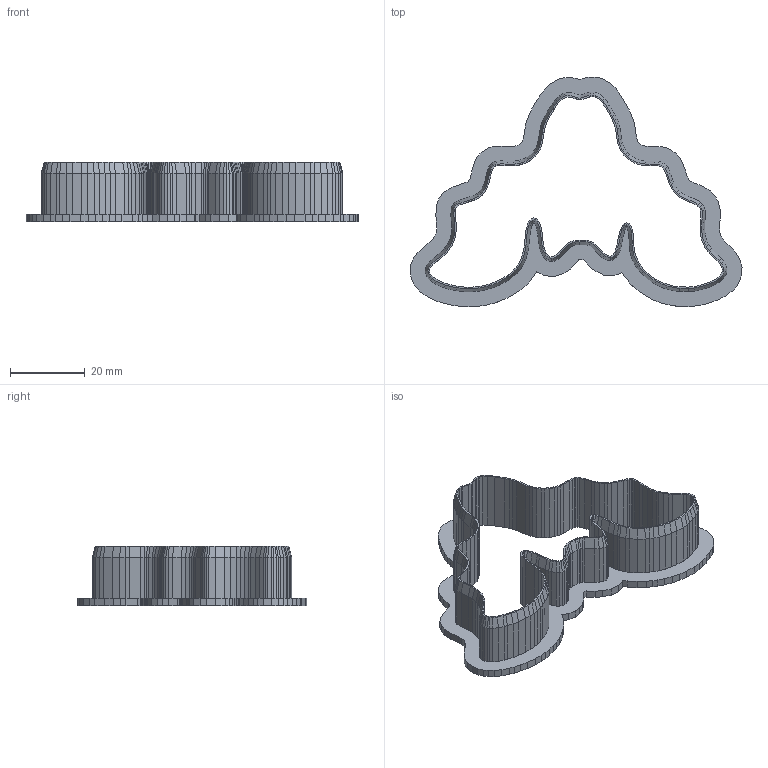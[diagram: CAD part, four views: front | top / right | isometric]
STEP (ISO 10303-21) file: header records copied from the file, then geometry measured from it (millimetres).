
FILE_DESCRIPTION(('Open CASCADE Model'),'2;1');
FILE_NAME('Open CASCADE Shape Model','2026-10-27T22:27:06',('Author'),( 'Open CASCADE'),'Open CASCADE STEP processor 7.9','Open CASCADE 7.9' ,'Unknown');
FILE_SCHEMA(('AUTOMOTIVE_DESIGN { 1 0 10303 214 1 1 1 1 }'));
Products named in the file (1): Open CASCADE STEP translator 7.9 11
Bounding box: 88.74 x 61.32 x 16 mm (x, y, z)
Volume: 6759.4 mm3; surface area: 10841.8 mm2
Topology: 1 solids, 1 shells, 799 faces, 2178 edges, 1382 vertices
Faces by surface type: plane 589, bspline 210
Entity records: 51351 total; most frequent: CARTESIAN_POINT 10735, DIRECTION 6325, LINE 5145, VECTOR 5145, ORIENTED_EDGE 4356, PCURVE 4356, DEFINITIONAL_REPRESENTATION 4356, EDGE_CURVE 2178
